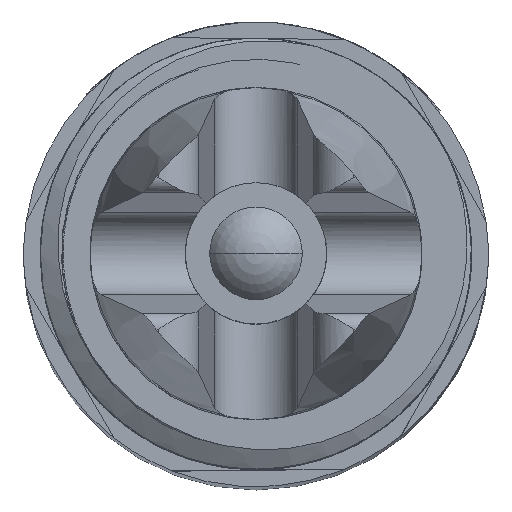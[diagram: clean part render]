
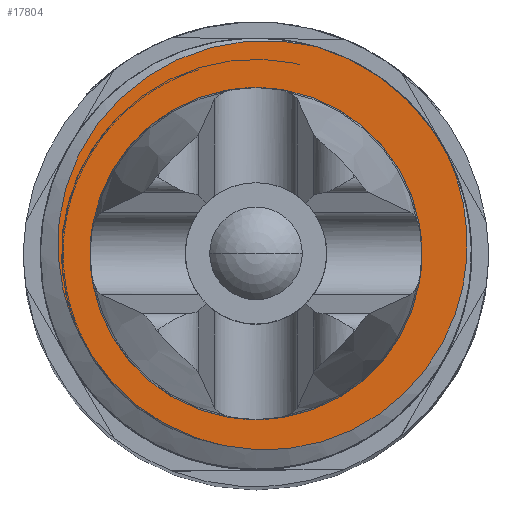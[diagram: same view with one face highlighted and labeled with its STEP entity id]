
A CAD part, top view. The second image highlights one B-rep face of the part: STEP entity #17804.
In plain terms, the highlighted planar face has unit normal (0, 0, 1).
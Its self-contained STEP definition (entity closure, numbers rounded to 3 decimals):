
#16287=CARTESIAN_POINT('',(-10.919,-4.252,15.));
#16288=CARTESIAN_POINT('',(-10.909,-4.274,15.));
#16289=CARTESIAN_POINT('',(-10.889,-4.319,15.));
#16290=CARTESIAN_POINT('',(-10.856,-4.391,15.));
#16291=CARTESIAN_POINT('',(-10.821,-4.468,15.));
#16292=CARTESIAN_POINT('',(-10.782,-4.55,15.));
#16293=CARTESIAN_POINT('',(-10.741,-4.638,15.));
#16294=CARTESIAN_POINT('',(-10.695,-4.732,15.));
#16295=CARTESIAN_POINT('',(-10.647,-4.832,15.));
#16296=CARTESIAN_POINT('',(-10.593,-4.938,15.));
#16297=CARTESIAN_POINT('',(-10.535,-5.052,15.));
#16298=CARTESIAN_POINT('',(-10.471,-5.173,15.));
#16299=CARTESIAN_POINT('',(-10.401,-5.303,15.));
#16300=CARTESIAN_POINT('',(-10.325,-5.443,15.));
#16301=CARTESIAN_POINT('',(-10.24,-5.591,15.));
#16302=CARTESIAN_POINT('',(-10.147,-5.75,15.));
#16303=CARTESIAN_POINT('',(-10.044,-5.919,15.));
#16304=CARTESIAN_POINT('',(-9.931,-6.099,15.));
#16305=CARTESIAN_POINT('',(-9.806,-6.29,15.));
#16306=CARTESIAN_POINT('',(-9.669,-6.492,15.));
#16307=CARTESIAN_POINT('',(-9.517,-6.706,15.));
#16308=CARTESIAN_POINT('',(-9.347,-6.934,15.));
#16309=CARTESIAN_POINT('',(-9.156,-7.178,15.));
#16310=CARTESIAN_POINT('',(-8.941,-7.439,15.));
#16311=CARTESIAN_POINT('',(-8.699,-7.716,15.));
#16312=CARTESIAN_POINT('',(-8.425,-8.01,15.));
#16313=CARTESIAN_POINT('',(-8.115,-8.321,15.));
#16314=CARTESIAN_POINT('',(-7.766,-8.647,15.));
#16315=CARTESIAN_POINT('',(-7.372,-8.984,15.));
#16316=CARTESIAN_POINT('',(-6.949,-9.315,15.));
#16317=CARTESIAN_POINT('',(-6.516,-9.625,15.));
#16318=CARTESIAN_POINT('',(-6.091,-9.902,15.));
#16319=CARTESIAN_POINT('',(-5.689,-10.142,15.));
#16320=CARTESIAN_POINT('',(-5.312,-10.349,15.));
#16321=CARTESIAN_POINT('',(-4.965,-10.524,15.));
#16322=CARTESIAN_POINT('',(-4.651,-10.671,15.));
#16323=CARTESIAN_POINT('',(-4.367,-10.795,15.));
#16324=CARTESIAN_POINT('',(-4.109,-10.901,15.));
#16325=CARTESIAN_POINT('',(-3.875,-10.991,15.));
#16326=CARTESIAN_POINT('',(-3.66,-11.069,15.));
#16327=CARTESIAN_POINT('',(-3.461,-11.138,15.));
#16328=CARTESIAN_POINT('',(-3.278,-11.198,15.));
#16329=CARTESIAN_POINT('',(-3.11,-11.25,15.));
#16330=CARTESIAN_POINT('',(-2.955,-11.296,15.));
#16331=CARTESIAN_POINT('',(-2.813,-11.337,15.));
#16332=CARTESIAN_POINT('',(-2.682,-11.373,15.));
#16333=CARTESIAN_POINT('',(-2.561,-11.404,15.));
#16334=CARTESIAN_POINT('',(-2.449,-11.433,15.));
#16335=CARTESIAN_POINT('',(-2.344,-11.459,15.));
#16336=CARTESIAN_POINT('',(-2.246,-11.482,15.));
#16337=CARTESIAN_POINT('',(-2.154,-11.504,15.));
#16338=CARTESIAN_POINT('',(-2.068,-11.523,15.));
#16339=CARTESIAN_POINT('',(-1.988,-11.541,15.));
#16340=CARTESIAN_POINT('',(-1.913,-11.557,15.));
#16341=CARTESIAN_POINT('',(-1.866,-11.567,15.));
#16342=CARTESIAN_POINT('',(-1.844,-11.572,15.));
#16344=CARTESIAN_POINT('',(3.64,12.48,15.));
#16345=CARTESIAN_POINT('',(3.077,12.618,15.));
#16346=CARTESIAN_POINT('',(1.888,12.828,15.));
#16347=CARTESIAN_POINT('',(-0.078,12.889,15.));
#16348=CARTESIAN_POINT('',(-2.31,12.599,15.));
#16349=CARTESIAN_POINT('',(-4.738,11.792,15.));
#16350=CARTESIAN_POINT('',(-7.056,10.431,15.));
#16351=CARTESIAN_POINT('',(-9.097,8.531,15.));
#16352=CARTESIAN_POINT('',(-10.66,6.216,15.));
#16353=CARTESIAN_POINT('',(-11.652,3.645,15.));
#16354=CARTESIAN_POINT('',(-12.041,0.948,15.));
#16355=CARTESIAN_POINT('',(-11.819,-1.739,15.));
#16356=CARTESIAN_POINT('',(-11.287,-3.428,15.));
#16357=CARTESIAN_POINT('',(-10.919,-4.252,15.));
#16359=CARTESIAN_POINT('',(0.,0.,15.));
#16360=DIRECTION('',(0.,0.,1.));
#16361=DIRECTION('',(0.884,0.468,0.));
#16362=AXIS2_PLACEMENT_3D('',#16359,#16360,#16361);
#16364=CARTESIAN_POINT('',(-1.844,-11.572,15.));
#16365=CARTESIAN_POINT('',(-1.427,-11.659,15.));
#16366=CARTESIAN_POINT('',(-0.596,-11.786,
15.));
#16367=CARTESIAN_POINT('',(0.639,-11.843,
15.));
#16368=CARTESIAN_POINT('',(1.865,-11.774,
15.));
#16369=CARTESIAN_POINT('',(3.155,-11.566,
15.));
#16370=CARTESIAN_POINT('',(4.556,-11.171,
15.));
#16371=CARTESIAN_POINT('',(6.083,-10.523,
15.));
#16372=CARTESIAN_POINT('',(7.752,-9.501,
15.));
#16373=CARTESIAN_POINT('',(9.374,-8.07,
15.));
#16374=CARTESIAN_POINT('',(10.713,-6.371,
15.));
#16375=CARTESIAN_POINT('',(11.688,-4.577,
15.));
#16376=CARTESIAN_POINT('',(12.342,-2.717,
15.));
#16377=CARTESIAN_POINT('',(12.689,-0.867,
15.));
#16378=CARTESIAN_POINT('',(12.763,0.933,
15.));
#16379=CARTESIAN_POINT('',(12.589,2.706,15.));
#16380=CARTESIAN_POINT('',(12.174,4.425,15.001));
#16381=CARTESIAN_POINT('',(11.745,5.538,14.998));
#16382=CARTESIAN_POINT('',(11.486,6.084,14.998));
#16890=VERTEX_POINT('',#16287);
#16891=VERTEX_POINT('',#16342);
#16892=VERTEX_POINT('',#16382);
#16893=VERTEX_POINT('',#16344);
#17790=CARTESIAN_POINT('',(0.,0.,15.));
#17791=DIRECTION('',(0.,0.,1.));
#17792=DIRECTION('',(1.,0.,0.));
#17793=AXIS2_PLACEMENT_3D('',#17790,#17791,#17792);
#17794=PLANE('',#17793);
#17796=ORIENTED_EDGE('',*,*,#17795,.F.);
#17798=ORIENTED_EDGE('',*,*,#17797,.F.);
#17800=ORIENTED_EDGE('',*,*,#17799,.F.);
#17801=ORIENTED_EDGE('',*,*,#17770,.F.);
#17802=EDGE_LOOP('',(#17796,#17798,#17800,#17801));
#17803=FACE_OUTER_BOUND('',#17802,.F.);
#17804=ADVANCED_FACE('',(#17803),#17794,.T.);
#16343=B_SPLINE_CURVE_WITH_KNOTS('',3,(#16287,#16288,#16289,#16290,#16291,
#16292,#16293,#16294,#16295,#16296,#16297,#16298,#16299,#16300,#16301,#16302,
#16303,#16304,#16305,#16306,#16307,#16308,#16309,#16310,#16311,#16312,#16313,
#16314,#16315,#16316,#16317,#16318,#16319,#16320,#16321,#16322,#16323,#16324,
#16325,#16326,#16327,#16328,#16329,#16330,#16331,#16332,#16333,#16334,#16335,
#16336,#16337,#16338,#16339,#16340,#16341,#16342),.UNSPECIFIED.,.F.,.F.,(4,1,1,
1,1,1,1,1,1,1,1,1,1,1,1,1,1,1,1,1,1,1,1,1,1,1,1,1,1,1,1,1,1,1,1,1,1,1,1,1,1,1,1,
1,1,1,1,1,1,1,1,1,1,4),(0.,0.019,0.038,
0.057,0.075,0.094,0.113,
0.132,0.151,0.17,0.189,
0.208,0.226,0.245,0.264,
0.283,0.302,0.321,0.34,
0.358,0.377,0.396,0.415,
0.434,0.453,0.472,0.491,
0.509,0.528,0.547,0.566,
0.585,0.604,0.623,0.642,
0.66,0.679,0.698,0.717,
0.736,0.755,0.774,0.792,
0.811,0.83,0.849,0.868,
0.887,0.906,0.925,0.943,
0.962,0.981,1.),.UNSPECIFIED.);
#16358=B_SPLINE_CURVE_WITH_KNOTS('',3,(#16344,#16345,#16346,#16347,#16348,
#16349,#16350,#16351,#16352,#16353,#16354,#16355,#16356,#16357),.UNSPECIFIED.,
.F.,.F.,(4,1,1,1,1,1,1,1,1,1,1,4),(0.,0.091,0.182,
0.273,0.364,0.455,0.545,
0.636,0.727,0.818,0.909,1.),
.UNSPECIFIED.);
#16363=CIRCLE('',#16362,13.);
#16383=B_SPLINE_CURVE_WITH_KNOTS('',3,(#16364,#16365,#16366,#16367,#16368,
#16369,#16370,#16371,#16372,#16373,#16374,#16375,#16376,#16377,#16378,#16379,
#16380,#16381,#16382),.UNSPECIFIED.,.F.,.F.,(4,1,1,1,1,1,1,1,1,1,1,1,1,1,1,1,4),
(0.,0.063,0.125,0.188,0.25,0.313,0.375,0.438,0.5,0.563,
0.625,0.688,0.75,0.813,0.875,0.938,1.),.UNSPECIFIED.);
#17770=EDGE_CURVE('',#16891,#16892,#16383,.T.);
#17795=EDGE_CURVE('',#16890,#16891,#16343,.T.);
#17797=EDGE_CURVE('',#16893,#16890,#16358,.T.);
#17799=EDGE_CURVE('',#16892,#16893,#16363,.T.);
